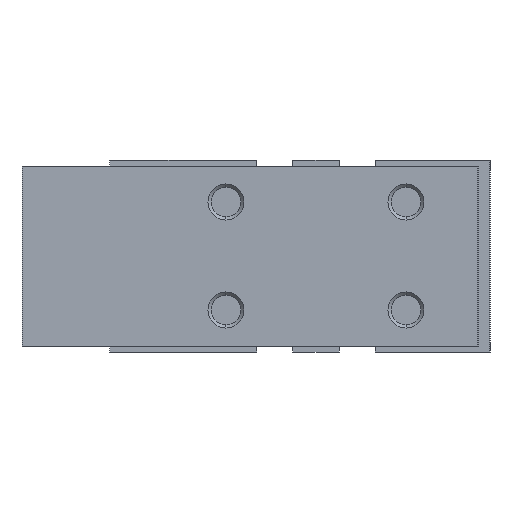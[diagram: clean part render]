
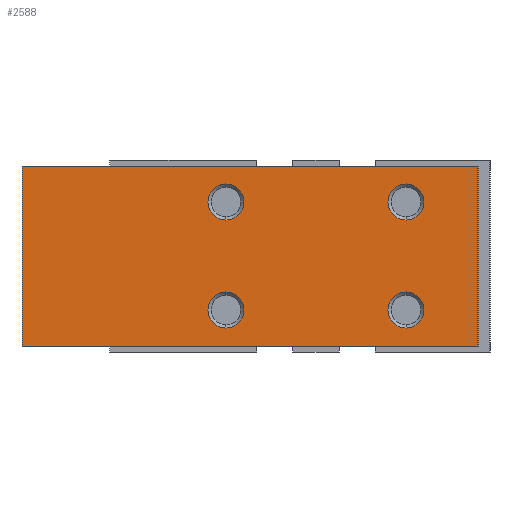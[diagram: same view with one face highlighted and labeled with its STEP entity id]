
A CAD part, left-side view. The second image highlights one B-rep face of the part: STEP entity #2588.
In plain terms, the highlighted planar face has unit normal (-1, 0, 0).
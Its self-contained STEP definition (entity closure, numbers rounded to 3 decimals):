
#26 = DIRECTION ( 'NONE',  ( 0., 0., 1. ) ) ;
#55 = VERTEX_POINT ( 'NONE', #2884 ) ;
#115 = CARTESIAN_POINT ( 'NONE',  ( -8.5, -7.5, 4.5 ) ) ;
#171 = DIRECTION ( 'NONE',  ( 0., 0., 1. ) ) ;
#240 = EDGE_LOOP ( 'NONE', ( #592, #5075 ) ) ;
#242 = ORIENTED_EDGE ( 'NONE', *, *, #1103, .F. ) ;
#261 = LINE ( 'NONE', #5421, #4215 ) ;
#290 = CIRCLE ( 'NONE', #1151, 1.5 ) ;
#334 = DIRECTION ( 'NONE',  ( 0., 1., 0. ) ) ;
#341 = VERTEX_POINT ( 'NONE', #4099 ) ;
#350 = CARTESIAN_POINT ( 'NONE',  ( -8.5, 7.5, 4.5 ) ) ;
#381 = VERTEX_POINT ( 'NONE', #4560 ) ;
#401 = DIRECTION ( 'NONE',  ( 0., 0., 1. ) ) ;
#426 = CIRCLE ( 'NONE', #3641, 1.5 ) ;
#516 = CARTESIAN_POINT ( 'NONE',  ( -8.5, 7.5, 4.5 ) ) ;
#578 = CIRCLE ( 'NONE', #3477, 1.5 ) ;
#592 = ORIENTED_EDGE ( 'NONE', *, *, #2482, .F. ) ;
#615 = AXIS2_PLACEMENT_3D ( 'NONE', #4007, #4490, #334 ) ;
#652 = VERTEX_POINT ( 'NONE', #2627 ) ;
#657 = EDGE_CURVE ( 'NONE', #5538, #55, #4348, .T. ) ;
#696 = DIRECTION ( 'NONE',  ( 0., -1., 0. ) ) ;
#721 = DIRECTION ( 'NONE',  ( 0., 0., 1. ) ) ;
#933 = EDGE_CURVE ( 'NONE', #5797, #4793, #578, .T. ) ;
#1014 = AXIS2_PLACEMENT_3D ( 'NONE', #5200, #4236, #2900 ) ;
#1077 = DIRECTION ( 'NONE',  ( 0., -1., 0. ) ) ;
#1103 = EDGE_CURVE ( 'NONE', #652, #4765, #1744, .T. ) ;
#1111 = CARTESIAN_POINT ( 'NONE',  ( -8.5, -7.5, -4.5 ) ) ;
#1139 = CARTESIAN_POINT ( 'NONE',  ( -8.5, 7.5, -6. ) ) ;
#1151 = AXIS2_PLACEMENT_3D ( 'NONE', #1111, #3025, #721 ) ;
#1216 = EDGE_LOOP ( 'NONE', ( #2211, #3671 ) ) ;
#1359 = VERTEX_POINT ( 'NONE', #3947 ) ;
#1443 = ORIENTED_EDGE ( 'NONE', *, *, #4557, .F. ) ;
#1580 = AXIS2_PLACEMENT_3D ( 'NONE', #115, #4675, #5694 ) ;
#1617 = CARTESIAN_POINT ( 'NONE',  ( -8.5, 7.5, 6. ) ) ;
#1636 = CARTESIAN_POINT ( 'NONE',  ( -8.5, -7.5, 4.5 ) ) ;
#1678 = EDGE_CURVE ( 'NONE', #381, #2318, #2893, .T. ) ;
#1744 = CIRCLE ( 'NONE', #4836, 1.5 ) ;
#2033 = DIRECTION ( 'NONE',  ( 0., 0., 1. ) ) ;
#2093 = LINE ( 'NONE', #4851, #5353 ) ;
#2118 = FACE_BOUND ( 'NONE', #4852, .T. ) ;
#2211 = ORIENTED_EDGE ( 'NONE', *, *, #3928, .F. ) ;
#2318 = VERTEX_POINT ( 'NONE', #3172 ) ;
#2342 = ORIENTED_EDGE ( 'NONE', *, *, #657, .F. ) ;
#2453 = EDGE_CURVE ( 'NONE', #3527, #2934, #5169, .T. ) ;
#2482 = EDGE_CURVE ( 'NONE', #4793, #5797, #2561, .T. ) ;
#2489 = DIRECTION ( 'NONE',  ( -1., 0., 0. ) ) ;
#2553 = DIRECTION ( 'NONE',  ( -1., 0., 0. ) ) ;
#2561 = CIRCLE ( 'NONE', #1580, 1.5 ) ;
#2588 = ADVANCED_FACE ( 'NONE', ( #3030, #5826, #2643, #2118, #4811 ), #5268, .F. ) ;
#2627 = CARTESIAN_POINT ( 'NONE',  ( -8.5, -7.5, -3. ) ) ;
#2630 = ORIENTED_EDGE ( 'NONE', *, *, #5109, .F. ) ;
#2643 = FACE_BOUND ( 'NONE', #240, .T. ) ;
#2746 = DIRECTION ( 'NONE',  ( 0., 0., 1. ) ) ;
#2805 = VECTOR ( 'NONE', #3933, 1000. ) ;
#2826 = CARTESIAN_POINT ( 'NONE',  ( -8.5, 7.5, -4.5 ) ) ;
#2884 = CARTESIAN_POINT ( 'NONE',  ( -8.5, 7.5, 3. ) ) ;
#2890 = VECTOR ( 'NONE', #1077, 1000. ) ;
#2893 = LINE ( 'NONE', #3845, #2890 ) ;
#2900 = DIRECTION ( 'NONE',  ( 0., 0., 1. ) ) ;
#2934 = VERTEX_POINT ( 'NONE', #3697 ) ;
#2938 = AXIS2_PLACEMENT_3D ( 'NONE', #2826, #2489, #171 ) ;
#2949 = CARTESIAN_POINT ( 'NONE',  ( -8.5, -7.5, -6. ) ) ;
#2952 = CARTESIAN_POINT ( 'NONE',  ( -8.5, -13.5, 7.5 ) ) ;
#3003 = EDGE_LOOP ( 'NONE', ( #3328, #1443, #3291, #5212 ) ) ;
#3025 = DIRECTION ( 'NONE',  ( -1., 0., 0. ) ) ;
#3026 = EDGE_CURVE ( 'NONE', #341, #1359, #2093, .T. ) ;
#3030 = FACE_OUTER_BOUND ( 'NONE', #3003, .T. ) ;
#3095 = AXIS2_PLACEMENT_3D ( 'NONE', #350, #5010, #2746 ) ;
#3172 = CARTESIAN_POINT ( 'NONE',  ( -8.5, -13.5, -7.5 ) ) ;
#3217 = CARTESIAN_POINT ( 'NONE',  ( -8.5, -7.5, 3. ) ) ;
#3291 = ORIENTED_EDGE ( 'NONE', *, *, #3026, .F. ) ;
#3328 = ORIENTED_EDGE ( 'NONE', *, *, #1678, .T. ) ;
#3383 = LINE ( 'NONE', #2952, #2805 ) ;
#3389 = EDGE_CURVE ( 'NONE', #55, #5538, #426, .T. ) ;
#3477 = AXIS2_PLACEMENT_3D ( 'NONE', #1636, #2553, #2033 ) ;
#3527 = VERTEX_POINT ( 'NONE', #1139 ) ;
#3641 = AXIS2_PLACEMENT_3D ( 'NONE', #516, #4189, #26 ) ;
#3671 = ORIENTED_EDGE ( 'NONE', *, *, #2453, .F. ) ;
#3697 = CARTESIAN_POINT ( 'NONE',  ( -8.5, 7.5, -3. ) ) ;
#3845 = CARTESIAN_POINT ( 'NONE',  ( -8.5, 24.5, -7.5 ) ) ;
#3918 = CIRCLE ( 'NONE', #1014, 1.5 ) ;
#3928 = EDGE_CURVE ( 'NONE', #2934, #3527, #3918, .T. ) ;
#3933 = DIRECTION ( 'NONE',  ( 0., 0., -1. ) ) ;
#3947 = CARTESIAN_POINT ( 'NONE',  ( -8.5, -13.5, 7.5 ) ) ;
#4007 = CARTESIAN_POINT ( 'NONE',  ( -8.5, 24.5, 7.5 ) ) ;
#4050 = EDGE_CURVE ( 'NONE', #341, #381, #261, .T. ) ;
#4098 = DIRECTION ( 'NONE',  ( -1., 0., 0. ) ) ;
#4099 = CARTESIAN_POINT ( 'NONE',  ( -8.5, 24.5, 7.5 ) ) ;
#4189 = DIRECTION ( 'NONE',  ( -1., 0., 0. ) ) ;
#4215 = VECTOR ( 'NONE', #4484, 1000. ) ;
#4236 = DIRECTION ( 'NONE',  ( -1., 0., 0. ) ) ;
#4348 = CIRCLE ( 'NONE', #3095, 1.5 ) ;
#4484 = DIRECTION ( 'NONE',  ( 0., 0., -1. ) ) ;
#4490 = DIRECTION ( 'NONE',  ( 1., 0., 0. ) ) ;
#4557 = EDGE_CURVE ( 'NONE', #1359, #2318, #3383, .T. ) ;
#4560 = CARTESIAN_POINT ( 'NONE',  ( -8.5, 24.5, -7.5 ) ) ;
#4589 = CARTESIAN_POINT ( 'NONE',  ( -8.5, -7.5, -4.5 ) ) ;
#4675 = DIRECTION ( 'NONE',  ( -1., 0., 0. ) ) ;
#4765 = VERTEX_POINT ( 'NONE', #2949 ) ;
#4793 = VERTEX_POINT ( 'NONE', #4824 ) ;
#4811 = FACE_BOUND ( 'NONE', #5004, .T. ) ;
#4824 = CARTESIAN_POINT ( 'NONE',  ( -8.5, -7.5, 6. ) ) ;
#4836 = AXIS2_PLACEMENT_3D ( 'NONE', #4589, #4098, #401 ) ;
#4851 = CARTESIAN_POINT ( 'NONE',  ( -8.5, 24.5, 7.5 ) ) ;
#4852 = EDGE_LOOP ( 'NONE', ( #242, #2630 ) ) ;
#5004 = EDGE_LOOP ( 'NONE', ( #2342, #5649 ) ) ;
#5010 = DIRECTION ( 'NONE',  ( -1., 0., 0. ) ) ;
#5075 = ORIENTED_EDGE ( 'NONE', *, *, #933, .F. ) ;
#5109 = EDGE_CURVE ( 'NONE', #4765, #652, #290, .T. ) ;
#5169 = CIRCLE ( 'NONE', #2938, 1.5 ) ;
#5200 = CARTESIAN_POINT ( 'NONE',  ( -8.5, 7.5, -4.5 ) ) ;
#5212 = ORIENTED_EDGE ( 'NONE', *, *, #4050, .T. ) ;
#5268 = PLANE ( 'NONE',  #615 ) ;
#5353 = VECTOR ( 'NONE', #696, 1000. ) ;
#5421 = CARTESIAN_POINT ( 'NONE',  ( -8.5, 24.5, 7.5 ) ) ;
#5538 = VERTEX_POINT ( 'NONE', #1617 ) ;
#5649 = ORIENTED_EDGE ( 'NONE', *, *, #3389, .F. ) ;
#5694 = DIRECTION ( 'NONE',  ( 0., 0., 1. ) ) ;
#5797 = VERTEX_POINT ( 'NONE', #3217 ) ;
#5826 = FACE_BOUND ( 'NONE', #1216, .T. ) ;
